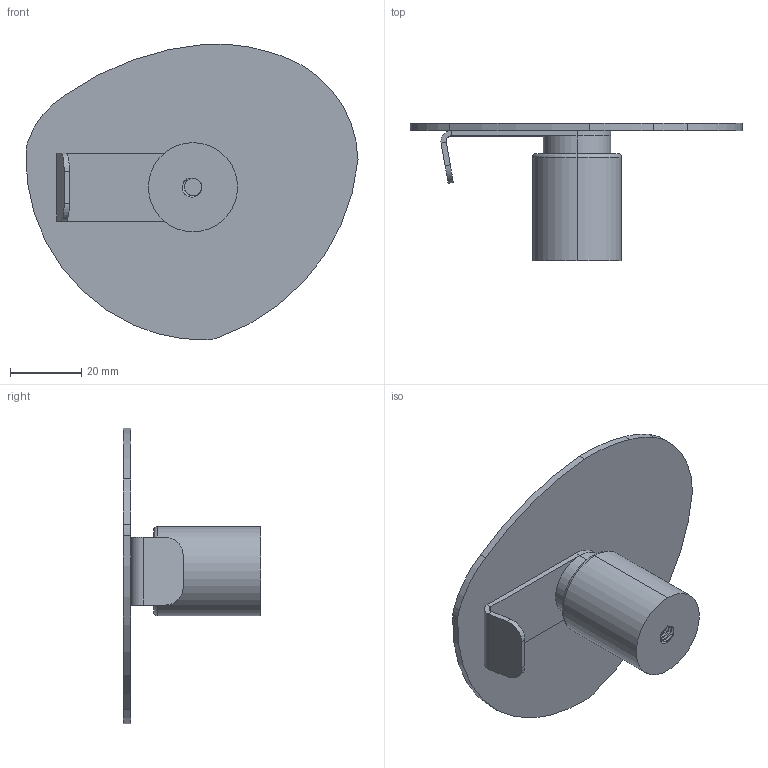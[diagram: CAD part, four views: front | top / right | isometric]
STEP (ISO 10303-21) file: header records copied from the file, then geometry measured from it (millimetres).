
FILE_DESCRIPTION (( 'STEP AP214' ), '1' );
FILE_NAME ('RUNAN SMALL wieszak na rêczniki z frontem nieregularnym.STEP', '2025-12-11T09:25:23', ( '' ), ( '' ), 'SwSTEP 2.0', 'SolidWorks 2021', '' );
FILE_SCHEMA (( 'AUTOMOTIVE_DESIGN' ));
Length unit declared in the file: millimetre
Products named in the file (6): 02-019-0080-W-01-01; 02-015-0045-W-00-01; 02-019-0080-W-01-00; RUNAN SMALL wieszak na rêczniki z frontem nieregularnym; 02-018-0080-W-01-02; 02-018-0080-W-02-00
Assembly tree (5 placements, depth 3):
  RUNAN SMALL wieszak na rêczniki z frontem nieregularnym
    02-015-0045-W-00-01
    02-019-0080-W-01-00
      02-019-0080-W-01-01
      02-018-0080-W-01-02
    02-018-0080-W-02-00
Bounding box: 93.16 x 38.5 x 82.97 mm (x, y, z)
Volume: 28946.8 mm3; surface area: 19561.3 mm2
Topology: 4 solids, 4 shells, 145 faces, 390 edges, 254 vertices
Faces by surface type: cylinder 114, plane 23, bspline 6, torus 2
Entity records: 11387 total; most frequent: CARTESIAN_POINT 8079, ORIENTED_EDGE 780, DIRECTION 545, EDGE_CURVE 390, VERTEX_POINT 254, AXIS2_PLACEMENT_3D 203, EDGE_LOOP 150, ADVANCED_FACE 145
